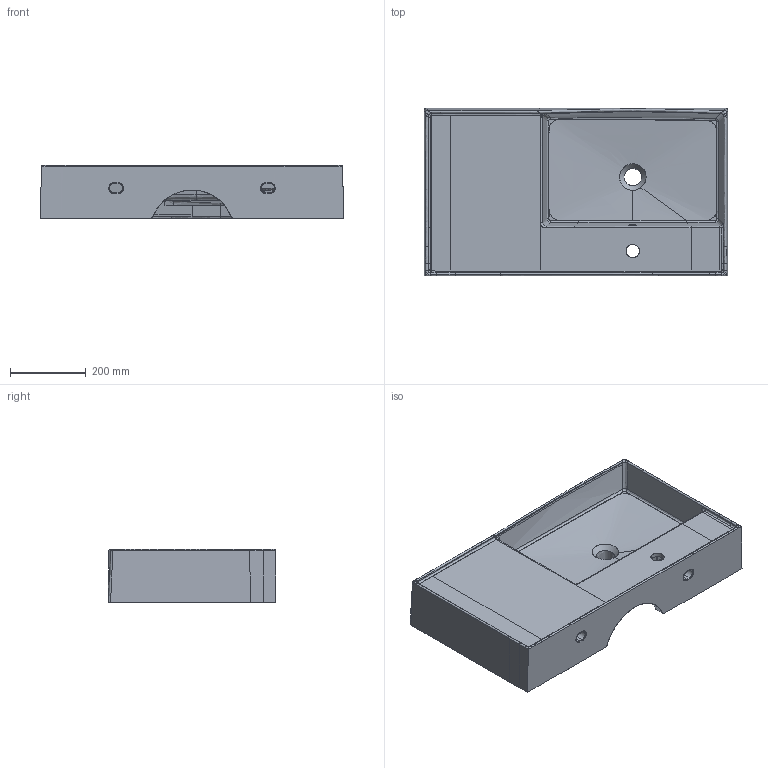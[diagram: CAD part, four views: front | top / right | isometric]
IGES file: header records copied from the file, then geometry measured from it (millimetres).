
Global section: file name: C:\Users\Massimiliano\Desktop\Teorema2.0\TEOREMA 2.0 lavabo 81x44 art.5115\TEOREMA 2.0 lavabo 81x44 art.5115.igs; native system: Rhinoceros ( Mar 28 2013 ); preprocessor: Trout Lake IGES 012 Mar 28 2013; date: 171129.105726; units: millimetre
Bounding box: 800 x 441.51 x 140.35 mm (x, y, z)
Surface area: 1351197.8 mm2 (no closed solid volume)
Topology: 0 solids, 0 shells, 298 faces, 3643 edges, 3633 vertices
Faces by surface type: bspline 298
